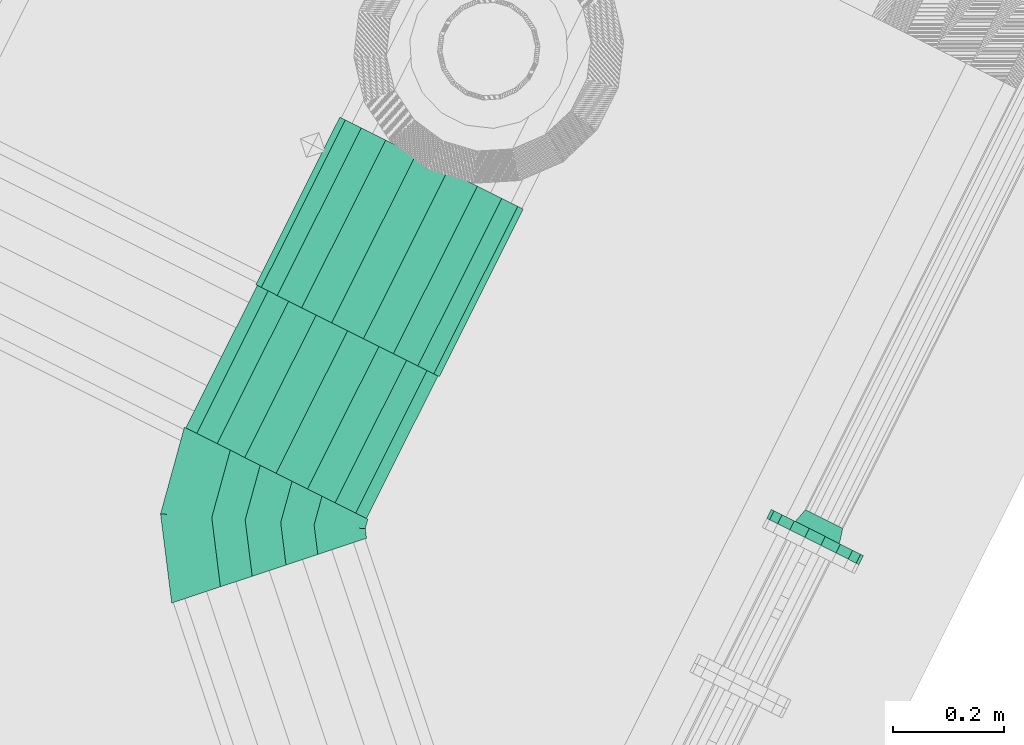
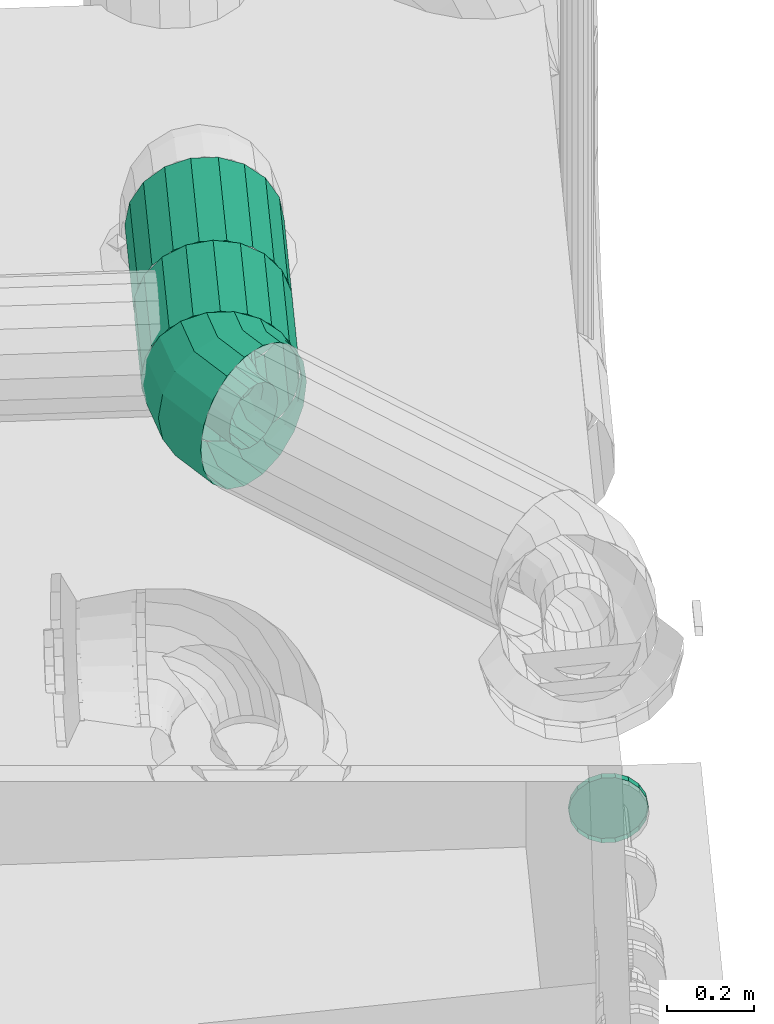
# One storey, part 81 of 206: 2 flow fittings, 2 flow segments.
"""IFC2X3 building model written with IfcOpenShell, lengths in metres."""

from ifc_helpers import new_model, si_unit, derived_unit, direction, frame, origin, place, context, subcontext, project, spatial, face_set, surface_model, source, transform, mapped, material, type_object, type_shapes, element, save


model = new_model("IFC2X3")

# Units and contexts
model_context = context("Model", 3, precision=5.2338327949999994e-05, world=origin(), true_north=direction((0.0, 1.0)))
body_context = subcontext(model_context, "Body", "Model", "MODEL_VIEW")
ifc_project = project(units=[si_unit("LENGTHUNIT", "METRE"), si_unit("AREAUNIT", "SQUARE_METRE"), si_unit("VOLUMEUNIT", "CUBIC_METRE"), si_unit("MASSUNIT", "GRAM", prefix="KILO"), si_unit("PLANEANGLEUNIT", "RADIAN"), derived_unit("THERMALTRANSMITTANCEUNIT", [(si_unit("MASSUNIT", "GRAM", prefix="KILO"), 1), (si_unit("THERMODYNAMICTEMPERATUREUNIT", "KELVIN"), -1), (si_unit("TIMEUNIT", "SECOND"), -3)])], contexts=[model_context])

# Site, building, storey
site_placement = place(None, frame((0.0, 0.0, 0.0), z_axis=(0.0, 0.0, 1.0), x_axis=(0.8939966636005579, -0.4480736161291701, 0.0)))
site = spatial("IfcSite", under=ifc_project, at=site_placement, Name="Default", CompositionType="ELEMENT")
building_placement = place(site_placement, origin())
building = spatial("IfcBuilding", under=site, at=building_placement, CompositionType="ELEMENT")
storey_placement = place(building_placement, origin())
storey = spatial("IfcBuildingStorey", under=building, at=storey_placement, Name="Erdgeschoss", CompositionType="ELEMENT", Elevation=0.0)

# Flow fitting
ifc_material_1 = material(Name="IfcSurfaceStyle #9317")
distribution_element_type_1 = type_object("IfcDistributionElementType", Name="Abzweigstück 340627:Abzweigstück 340627", material=ifc_material_1)
shared_shape_1 = source(origin(), body_context, "Body", "SurfaceModel", [
    surface_model("IfcFaceBasedSurfaceModel", [(26.529823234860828, 6.5159610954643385, 2.43815), (26.558604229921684, 6.5159610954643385, 2.433075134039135), (26.558604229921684, 6.801961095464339, 2.433075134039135), (26.529823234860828, 6.801961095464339, 2.43815), (26.58391381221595, 6.5159610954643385, 2.4184626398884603), (26.58391381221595, 6.801961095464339, 2.4184626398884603), (26.602699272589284, 6.5159610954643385, 2.396075), (26.602699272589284, 6.801961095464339, 2.396075), (26.612694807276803, 6.5159610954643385, 2.36861249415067), (26.612694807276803, 6.801961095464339, 2.36861249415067), (26.612694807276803, 6.5159610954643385, 2.339387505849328), (26.612694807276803, 6.801961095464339, 2.339387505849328), (26.602699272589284, 6.5159610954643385, 2.3119250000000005), (26.602699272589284, 6.801961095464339, 2.3119250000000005), (26.58391381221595, 6.5159610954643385, 2.28953736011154), (26.58391381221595, 6.801961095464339, 2.28953736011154), (26.558604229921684, 6.5159610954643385, 2.2749248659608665), (26.558604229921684, 6.801961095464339, 2.2749248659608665), (26.529823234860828, 6.515961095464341, 2.2698499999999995), (26.529823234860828, 6.801961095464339, 2.2698500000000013), (26.50104223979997, 6.5159610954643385, 2.274924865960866), (26.50104223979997, 6.801961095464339, 2.2749248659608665), (26.475732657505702, 6.5159610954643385, 2.2895373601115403), (26.475732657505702, 6.801961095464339, 2.2895373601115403), (26.45694719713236, 6.5159610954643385, 2.311925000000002), (26.45694719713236, 6.801961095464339, 2.311925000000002), (26.44695166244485, 6.5159610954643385, 2.339387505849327), (26.44695166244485, 6.801961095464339, 2.339387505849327), (26.44695166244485, 6.5159610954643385, 2.3686124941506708), (26.44695166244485, 6.801961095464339, 2.3686124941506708), (26.45694719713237, 6.5159610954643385, 2.396075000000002), (26.45694719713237, 6.801961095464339, 2.396075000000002), (26.475732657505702, 6.5159610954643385, 2.4184626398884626), (26.475732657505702, 6.801961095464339, 2.4184626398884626), (26.501042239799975, 6.5159610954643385, 2.4330751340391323), (26.501042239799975, 6.801961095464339, 2.4330751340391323), (26.529823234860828, 6.5159610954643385, 2.5381499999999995), (26.592806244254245, 6.5159610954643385, 2.5270443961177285), (26.592806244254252, 6.801961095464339, 2.5270443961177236), (26.529823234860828, 6.801961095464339, 2.5381499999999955), (26.648192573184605, 6.5159610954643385, 2.4950670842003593), (26.648192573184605, 6.801961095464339, 2.4950670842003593), (26.689301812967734, 6.5159610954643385, 2.446074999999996), (26.689301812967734, 6.801961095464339, 2.446074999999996), (26.711175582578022, 6.5159610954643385, 2.3859773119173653), (26.711175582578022, 6.801961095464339, 2.3859773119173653), (26.711175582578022, 6.5159610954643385, 2.3220226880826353), (26.711175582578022, 6.801961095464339, 2.3220226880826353), (26.689301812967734, 6.5159610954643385, 2.2619249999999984), (26.689301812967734, 6.801961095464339, 2.2619249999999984), (26.648192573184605, 6.5159610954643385, 2.212932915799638), (26.648192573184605, 6.801961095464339, 2.212932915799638), (26.592806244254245, 6.5159610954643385, 2.1809556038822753), (26.592806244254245, 6.801961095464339, 2.1809556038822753), (26.529823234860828, 6.5159610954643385, 2.1698499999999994), (26.529823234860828, 6.801961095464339, 2.1698499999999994), (26.466840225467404, 6.5159610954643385, 2.1809556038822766), (26.466840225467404, 6.801961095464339, 2.1809556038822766), (26.411453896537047, 6.5159610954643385, 2.2129329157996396), (26.411453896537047, 6.801961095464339, 2.2129329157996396), (26.37034465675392, 6.5159610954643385, 2.261925), (26.37034465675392, 6.801961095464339, 2.261925), (26.34847088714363, 6.5159610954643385, 2.322022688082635), (26.34847088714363, 6.801961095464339, 2.322022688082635), (26.34847088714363, 6.5159610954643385, 2.385977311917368), (26.34847088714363, 6.801961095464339, 2.385977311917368), (26.37034465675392, 6.5159610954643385, 2.4460750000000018), (26.37034465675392, 6.801961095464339, 2.4460750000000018), (26.41145389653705, 6.5159610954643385, 2.49506708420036), (26.41145389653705, 6.801961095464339, 2.49506708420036), (26.4668402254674, 6.5159610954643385, 2.5270443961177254), (26.4668402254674, 6.801961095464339, 2.5270443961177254), (26.44567323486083, 6.728811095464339, 2.3540000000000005), (26.44913565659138, 6.724598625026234, 2.330109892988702), (26.392823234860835, 6.724598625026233, 2.3301098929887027), (26.392823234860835, 6.728811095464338, 2.3540000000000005), (26.45865211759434, 6.7124692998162, 2.3091012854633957), (26.392823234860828, 6.7124692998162, 2.3091012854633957), (26.471325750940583, 6.6938860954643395, 2.2935081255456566), (26.392823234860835, 6.6938860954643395, 2.293508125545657), (26.48135344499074, 6.671090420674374, 2.285211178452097), (26.392823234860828, 6.671090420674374, 2.2852111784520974), (26.48135344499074, 6.646831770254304, 2.285211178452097), (26.392823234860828, 6.646831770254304, 2.2852111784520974), (26.471325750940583, 6.624036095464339, 2.293508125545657), (26.392823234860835, 6.624036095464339, 2.2935081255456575), (26.45865211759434, 6.6054528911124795, 2.3091012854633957), (26.392823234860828, 6.6054528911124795, 2.309101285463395), (26.44913565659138, 6.593323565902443, 2.330109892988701), (26.392823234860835, 6.593323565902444, 2.330109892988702), (26.44567323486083, 6.5891110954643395, 2.3540000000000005), (26.392823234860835, 6.5891110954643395, 2.3540000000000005), (26.44913565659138, 6.593323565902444, 2.3778901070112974), (26.392823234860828, 6.593323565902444, 2.3778901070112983), (26.45865211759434, 6.6054528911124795, 2.3988987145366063), (26.392823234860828, 6.6054528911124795, 2.3988987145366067), (26.471325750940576, 6.624036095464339, 2.414491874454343), (26.392823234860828, 6.624036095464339, 2.4144918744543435), (26.48135344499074, 6.646831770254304, 2.422788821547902), (26.392823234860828, 6.646831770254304, 2.422788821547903), (26.48135344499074, 6.671090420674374, 2.4227888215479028), (26.392823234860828, 6.671090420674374, 2.4227888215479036), (26.471325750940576, 6.6938860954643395, 2.4144918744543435), (26.392823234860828, 6.6938860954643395, 2.414491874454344), (26.45865211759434, 6.7124692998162, 2.398898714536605), (26.392823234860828, 6.7124692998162, 2.398898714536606), (26.44913565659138, 6.724598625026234, 2.3778901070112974), (26.392823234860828, 6.724598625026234, 2.3778901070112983)], [face_set([[[0, 1, 2, 3]], [[1, 4, 5, 2]], [[4, 6, 7, 5]], [[6, 8, 9, 7]], [[8, 10, 11, 9]], [[10, 12, 13, 11]], [[12, 14, 15, 13]], [[14, 16, 17, 15]], [[16, 18, 19, 17]], [[18, 20, 21, 19]], [[20, 22, 23, 21]], [[22, 24, 25, 23]], [[24, 26, 27, 25]], [[26, 28, 29, 27]], [[28, 30, 31, 29]], [[30, 32, 33, 31]], [[32, 34, 35, 33]], [[34, 0, 3, 35]], [[36, 37, 38, 39]], [[37, 40, 41, 38]], [[40, 42, 43, 41]], [[42, 44, 45, 43]], [[44, 46, 47, 45]], [[46, 48, 49, 47]], [[48, 50, 51, 49]], [[50, 52, 53, 51]], [[52, 54, 55, 53]], [[54, 56, 57, 55]], [[56, 58, 59, 57]], [[58, 60, 61, 59]], [[60, 62, 63, 61]], [[62, 64, 65, 63]], [[64, 66, 67, 65]], [[66, 68, 69, 67]], [[68, 70, 71, 69]], [[70, 36, 39, 71]], [[72, 73, 74, 75]], [[73, 76, 77, 74]], [[76, 78, 79, 77]], [[78, 80, 81, 79]], [[80, 82, 83, 81]], [[82, 84, 85, 83]], [[84, 86, 87, 85]], [[86, 88, 89, 87]], [[88, 90, 91, 89]], [[90, 92, 93, 91]], [[92, 94, 95, 93]], [[94, 96, 97, 95]], [[96, 98, 99, 97]], [[98, 100, 101, 99]], [[100, 102, 103, 101]], [[102, 104, 105, 103]], [[104, 106, 107, 105]], [[106, 72, 75, 107]]])]),
])
type_shapes(distribution_element_type_1, [shared_shape_1])
flow_fitting_1_placement = place(storey_placement, origin())
element("IfcFlowFitting", 1, at=flow_fitting_1_placement, inside=storey, type_object=distribution_element_type_1, material=ifc_material_1, Name="Abzweigstück", ObjectType="Abzweigstück", context=body_context, shape_type="MappedRepresentation", body=[
    mapped(shared_shape_1, transform((0.0, 0.0, 0.0), scale=1.0)),
])

# Flow segments
distribution_element_type_2 = type_object("IfcDistributionElementType", Name="Stahlrohr nach DIN 2448 340650:Stahlrohr nach DIN 2448 340650", material=ifc_material_1)
shared_shape_2 = source(origin(), body_context, "Body", "SurfaceModel", [
    surface_model("IfcFaceBasedSurfaceModel", [(26.613973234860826, 7.138307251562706, 2.3539999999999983), (26.60889836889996, 7.138307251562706, 2.382780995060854), (26.60889836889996, 6.80196109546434, 2.382780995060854), (26.613973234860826, 6.80196109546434, 2.354000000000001), (26.594285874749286, 7.138307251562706, 2.40809057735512), (26.594285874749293, 6.80196109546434, 2.4080905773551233), (26.571898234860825, 7.138307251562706, 2.426876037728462), (26.57189823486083, 6.80196109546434, 2.426876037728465), (26.544435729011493, 7.138307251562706, 2.4368715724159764), (26.544435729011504, 6.80196109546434, 2.436871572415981), (26.515210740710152, 7.138307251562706, 2.4368715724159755), (26.515210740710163, 6.80196109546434, 2.4368715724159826), (26.487748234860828, 7.138307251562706, 2.4268760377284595), (26.48774823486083, 6.80196109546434, 2.4268760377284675), (26.465360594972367, 7.138307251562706, 2.4080905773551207), (26.46536059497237, 6.80196109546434, 2.408090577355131), (26.45074810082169, 7.138307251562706, 2.382780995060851), (26.4507481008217, 6.80196109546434, 2.3827809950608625), (26.445673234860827, 7.138307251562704, 2.3539999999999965), (26.445673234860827, 6.801961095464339, 2.3540000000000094), (26.45074810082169, 7.138307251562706, 2.325219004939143), (26.450748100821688, 6.801961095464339, 2.325219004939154), (26.465360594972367, 7.138307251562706, 2.299909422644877), (26.465360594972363, 6.80196109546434, 2.299909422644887), (26.487748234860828, 7.138307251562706, 2.2811239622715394), (26.487748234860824, 6.80196109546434, 2.281123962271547), (26.51521074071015, 7.138307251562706, 2.2711284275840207), (26.51521074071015, 6.80196109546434, 2.271128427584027), (26.5444357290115, 7.138307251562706, 2.271128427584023), (26.54443572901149, 6.80196109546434, 2.271128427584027), (26.571898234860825, 7.138307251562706, 2.2811239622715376), (26.57189823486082, 6.80196109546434, 2.2811239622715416), (26.59428587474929, 7.138307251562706, 2.299909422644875), (26.594285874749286, 6.80196109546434, 2.2999094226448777), (26.60889836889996, 7.138307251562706, 2.325219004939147), (26.60889836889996, 6.80196109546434, 2.3252190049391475), (26.71397323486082, 7.138307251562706, 2.353999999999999), (26.702867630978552, 7.138307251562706, 2.4169830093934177), (26.702867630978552, 6.80196109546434, 2.4169830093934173), (26.713973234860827, 6.80196109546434, 2.3539999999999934), (26.670890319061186, 7.138307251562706, 2.4723693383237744), (26.67089031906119, 6.80196109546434, 2.4723693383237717), (26.62189823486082, 7.138307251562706, 2.5134785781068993), (26.621898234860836, 6.80196109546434, 2.5134785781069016), (26.561800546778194, 7.138307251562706, 2.5353523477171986), (26.5618005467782, 6.80196109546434, 2.5353523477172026), (26.497845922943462, 7.138307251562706, 2.5353523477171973), (26.497845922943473, 6.80196109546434, 2.535352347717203), (26.437748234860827, 7.138307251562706, 2.5134785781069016), (26.437748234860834, 6.80196109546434, 2.5134785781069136), (26.388756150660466, 7.138307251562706, 2.4723693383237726), (26.38875615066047, 6.80196109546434, 2.4723693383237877), (26.3567788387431, 7.138307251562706, 2.4169830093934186), (26.3567788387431, 6.80196109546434, 2.416983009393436), (26.345673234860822, 7.138307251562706, 2.3539999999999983), (26.345673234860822, 6.80196109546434, 2.3540000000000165), (26.3567788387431, 7.138307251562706, 2.2910169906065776), (26.356778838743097, 6.80196109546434, 2.2910169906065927), (26.388756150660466, 7.138307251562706, 2.2356306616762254), (26.38875615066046, 6.80196109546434, 2.2356306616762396), (26.437748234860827, 7.138307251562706, 2.194521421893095), (26.437748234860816, 6.80196109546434, 2.194521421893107), (26.497845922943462, 7.138307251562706, 2.172647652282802), (26.49784592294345, 6.80196109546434, 2.17264765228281), (26.561800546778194, 7.138307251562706, 2.1726476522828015), (26.56180054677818, 6.80196109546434, 2.1726476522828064), (26.621898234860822, 7.138307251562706, 2.194521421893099), (26.62189823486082, 6.80196109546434, 2.1945214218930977), (26.67089031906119, 7.138307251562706, 2.235630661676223), (26.670890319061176, 6.80196109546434, 2.2356306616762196), (26.702867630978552, 7.138307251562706, 2.29101699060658), (26.702867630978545, 6.80196109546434, 2.291016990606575)], [face_set([[[0, 1, 2, 3]], [[1, 4, 5, 2]], [[4, 6, 7, 5]], [[6, 8, 9, 7]], [[8, 10, 11, 9]], [[10, 12, 13, 11]], [[12, 14, 15, 13]], [[14, 16, 17, 15]], [[16, 18, 19, 17]], [[18, 20, 21, 19]], [[20, 22, 23, 21]], [[22, 24, 25, 23]], [[24, 26, 27, 25]], [[26, 28, 29, 27]], [[28, 30, 31, 29]], [[30, 32, 33, 31]], [[32, 34, 35, 33]], [[34, 0, 3, 35]], [[36, 37, 38, 39]], [[37, 40, 41, 38]], [[40, 42, 43, 41]], [[42, 44, 45, 43]], [[44, 46, 47, 45]], [[46, 48, 49, 47]], [[48, 50, 51, 49]], [[50, 52, 53, 51]], [[52, 54, 55, 53]], [[54, 56, 57, 55]], [[56, 58, 59, 57]], [[58, 60, 61, 59]], [[60, 62, 63, 61]], [[62, 64, 65, 63]], [[64, 66, 67, 65]], [[66, 68, 69, 67]], [[68, 70, 71, 69]], [[70, 36, 39, 71]]])]),
])
type_shapes(distribution_element_type_2, [shared_shape_2])
flow_segment_1_placement = place(storey_placement, origin())
element("IfcFlowSegment", 2, at=flow_segment_1_placement, inside=storey, type_object=distribution_element_type_2, material=ifc_material_1, Name="Stahlrohr nach DIN 2448", ObjectType="Stahlrohr nach DIN 2448", context=body_context, shape_type="MappedRepresentation", body=[
    mapped(shared_shape_2, transform((0.0, 0.0, 0.0), scale=1.0)),
])
distribution_element_type_3 = type_object("IfcDistributionElementType", Name="Rohrbogen 342254:Rohrbogen 342254", material=ifc_material_1)
shared_shape_3 = source(origin(), body_context, "Body", "SurfaceModel", [
    surface_model("IfcFaceBasedSurfaceModel", [(26.445673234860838, 6.515961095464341, 2.354000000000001), (26.450748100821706, 6.5159610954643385, 2.325219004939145), (26.474198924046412, 6.398065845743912, 2.325219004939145), (26.469510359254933, 6.396123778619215, 2.354000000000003), (26.54098121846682, 6.298119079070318, 2.3252190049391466), (26.537392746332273, 6.294530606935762, 2.3539999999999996), (26.465360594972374, 6.5159610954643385, 2.299909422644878), (26.487699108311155, 6.403657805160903, 2.299909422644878), (26.5513138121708, 6.308451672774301, 2.2999094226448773), (26.48774823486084, 6.515961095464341, 2.2811239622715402), (26.50838259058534, 6.412225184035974, 2.2811239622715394), (26.5671442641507, 6.324282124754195, 2.281123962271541), (26.515210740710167, 6.51596109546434, 2.271128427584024), (26.533754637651, 6.42273463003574, 2.271128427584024), (26.58656318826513, 6.3437010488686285, 2.271128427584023), (26.54443572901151, 6.51596109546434, 2.271128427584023), (26.560755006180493, 6.433918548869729, 2.271128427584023), (26.607228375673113, 6.364366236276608, 2.2711284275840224), (26.57189823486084, 6.51596109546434, 2.281123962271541), (26.586127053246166, 6.444427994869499, 2.2811239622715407), (26.626647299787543, 6.383785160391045, 2.281123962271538), (26.5942858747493, 6.5159610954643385, 2.299909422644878), (26.60681053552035, 6.4529953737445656, 2.299909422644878), (26.642477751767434, 6.399615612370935, 2.299909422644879), (26.608898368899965, 6.515961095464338, 2.3252190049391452), (26.620310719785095, 6.458587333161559, 2.3252190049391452), (26.652810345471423, 6.409948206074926, 2.325219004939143), (26.61397323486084, 6.5159610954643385, 2.354000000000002), (26.624999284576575, 6.460529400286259, 2.354000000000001), (26.656398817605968, 6.413536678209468, 2.3540000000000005), (26.60889836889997, 6.5159610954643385, 2.382780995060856), (26.620310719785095, 6.45858733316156, 2.382780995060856), (26.652810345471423, 6.409948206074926, 2.3827809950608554), (26.594285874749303, 6.51596109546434, 2.408090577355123), (26.606810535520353, 6.4529953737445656, 2.408090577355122), (26.64247775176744, 6.399615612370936, 2.4080905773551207), (26.57189823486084, 6.51596109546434, 2.4268760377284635), (26.586127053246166, 6.444427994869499, 2.4268760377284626), (26.626647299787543, 6.383785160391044, 2.426876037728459), (26.54443572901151, 6.51596109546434, 2.4368715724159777), (26.560755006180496, 6.433918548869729, 2.436871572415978), (26.607228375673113, 6.3643662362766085, 2.436871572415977), (26.515210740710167, 6.5159610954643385, 2.4368715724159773), (26.533754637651, 6.422734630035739, 2.4368715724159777), (26.58656318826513, 6.3437010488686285, 2.4368715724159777), (26.48774823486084, 6.51596109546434, 2.4268760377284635), (26.508382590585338, 6.412225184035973, 2.4268760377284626), (26.56714426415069, 6.324282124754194, 2.42687603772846), (26.46536059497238, 6.5159610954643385, 2.4080905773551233), (26.487699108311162, 6.403657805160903, 2.408090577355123), (26.551313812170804, 6.308451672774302, 2.4080905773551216), (26.450748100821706, 6.51596109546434, 2.3827809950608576), (26.47419892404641, 6.398065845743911, 2.3827809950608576), (26.540981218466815, 6.2981190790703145, 2.382780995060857), (26.34567323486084, 6.515961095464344, 2.3539999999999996), (26.35677883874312, 6.515961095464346, 2.291016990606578), (26.387382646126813, 6.362105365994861, 2.2910169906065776), (26.377122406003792, 6.357855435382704, 2.353999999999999), (26.474534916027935, 6.231672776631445, 2.291016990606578), (26.46668206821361, 6.223819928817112, 2.353999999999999), (26.38875615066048, 6.515961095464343, 2.2356306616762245), (26.416925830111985, 6.374342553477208, 2.235630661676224), (26.49714629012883, 6.25428415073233, 2.2356306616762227), (26.437748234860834, 6.515961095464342, 2.1945214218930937), (26.462188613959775, 6.39309101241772, 2.194521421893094), (26.531788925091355, 6.288926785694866, 2.194521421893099), (26.497845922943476, 6.51596109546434, 2.1726476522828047), (26.517711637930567, 6.416089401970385, 2.1726476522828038), (26.574284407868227, 6.331422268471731, 2.1726476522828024), (26.56180054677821, 6.5159610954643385, 2.1726476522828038), (26.576798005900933, 6.440563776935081, 2.172647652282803), (26.61950715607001, 6.376645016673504, 2.172647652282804), (26.62189823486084, 6.515961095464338, 2.1945214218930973), (26.63232102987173, 6.463562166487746, 2.1945214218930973), (26.66200263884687, 6.419140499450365, 2.1945214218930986), (26.670890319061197, 6.515961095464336, 2.235630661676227), (26.677583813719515, 6.482310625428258, 2.235630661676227), (26.69664527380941, 6.453783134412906, 2.235630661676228), (26.70286763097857, 6.515961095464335, 2.2910169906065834), (26.707126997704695, 6.494547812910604, 2.2910169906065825), (26.719256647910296, 6.476394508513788, 2.291016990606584), (26.713973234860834, 6.515961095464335, 2.354000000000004), (26.7173872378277, 6.498797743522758, 2.354000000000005), (26.727109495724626, 6.4842473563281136, 2.3540000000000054), (26.70286763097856, 6.515961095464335, 2.4169830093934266), (26.70712699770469, 6.494547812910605, 2.4169830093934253), (26.719256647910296, 6.476394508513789, 2.4169830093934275), (26.670890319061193, 6.515961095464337, 2.47236933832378), (26.677583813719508, 6.482310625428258, 2.47236933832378), (26.696645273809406, 6.453783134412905, 2.4723693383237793), (26.621898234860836, 6.515961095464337, 2.5134785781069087), (26.63232102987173, 6.463562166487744, 2.5134785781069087), (26.662002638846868, 6.419140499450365, 2.5134785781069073), (26.5618005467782, 6.515961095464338, 2.535352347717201), (26.576798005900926, 6.440563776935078, 2.535352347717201), (26.61950715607, 6.376645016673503, 2.5353523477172), (26.497845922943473, 6.51596109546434, 2.5353523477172), (26.517711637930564, 6.416089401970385, 2.5353523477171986), (26.574284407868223, 6.33142226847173, 2.5353523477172), (26.437748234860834, 6.515961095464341, 2.513478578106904), (26.46218861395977, 6.393091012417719, 2.5134785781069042), (26.531788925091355, 6.288926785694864, 2.513478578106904), (26.388756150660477, 6.515961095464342, 2.472369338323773), (26.416925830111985, 6.374342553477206, 2.472369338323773), (26.497146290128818, 6.254284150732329, 2.472369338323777), (26.356778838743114, 6.515961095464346, 2.4169830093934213), (26.387382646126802, 6.36210536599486, 2.4169830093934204), (26.47453491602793, 6.231672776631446, 2.416983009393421)], [face_set([[[0, 1, 2, 3]], [[3, 2, 4, 5]], [[1, 6, 7, 2]], [[2, 7, 8, 4]], [[6, 9, 10, 7]], [[7, 10, 11, 8]], [[9, 12, 13, 10]], [[10, 13, 14, 11]], [[12, 15, 16, 13]], [[13, 16, 17, 14]], [[15, 18, 19, 16]], [[16, 19, 20, 17]], [[18, 21, 22, 19]], [[19, 22, 23, 20]], [[21, 24, 25, 22]], [[22, 25, 26, 23]], [[24, 27, 28, 25]], [[25, 28, 29, 26]], [[27, 30, 31, 28]], [[28, 31, 32, 29]], [[30, 33, 34, 31]], [[31, 34, 35, 32]], [[33, 36, 37, 34]], [[34, 37, 38, 35]], [[36, 39, 40, 37]], [[37, 40, 41, 38]], [[39, 42, 43, 40]], [[40, 43, 44, 41]], [[42, 45, 46, 43]], [[43, 46, 47, 44]], [[45, 48, 49, 46]], [[46, 49, 50, 47]], [[48, 51, 52, 49]], [[49, 52, 53, 50]], [[51, 0, 3, 52]], [[52, 3, 5, 53]], [[54, 55, 56, 57]], [[57, 56, 58, 59]], [[55, 60, 61, 56]], [[56, 61, 62, 58]], [[60, 63, 64, 61]], [[61, 64, 65, 62]], [[63, 66, 67, 64]], [[64, 67, 68, 65]], [[66, 69, 70, 67]], [[67, 70, 71, 68]], [[69, 72, 73, 70]], [[70, 73, 74, 71]], [[72, 75, 76, 73]], [[73, 76, 77, 74]], [[75, 78, 79, 76]], [[76, 79, 80, 77]], [[78, 81, 82, 79]], [[79, 82, 83, 80]], [[81, 84, 85, 82]], [[82, 85, 86, 83]], [[84, 87, 88, 85]], [[85, 88, 89, 86]], [[87, 90, 91, 88]], [[88, 91, 92, 89]], [[90, 93, 94, 91]], [[91, 94, 95, 92]], [[93, 96, 97, 94]], [[94, 97, 98, 95]], [[96, 99, 100, 97]], [[97, 100, 101, 98]], [[99, 102, 103, 100]], [[100, 103, 104, 101]], [[102, 105, 106, 103]], [[103, 106, 107, 104]], [[105, 54, 57, 106]], [[106, 57, 59, 107]]])]),
])
type_shapes(distribution_element_type_3, [shared_shape_3])
flow_segment_2_placement = place(storey_placement, origin())
element("IfcFlowSegment", 3, at=flow_segment_2_placement, inside=storey, type_object=distribution_element_type_3, material=ifc_material_1, Name="Rohrbogen", ObjectType="Rohrbogen", context=body_context, shape_type="MappedRepresentation", body=[
    mapped(shared_shape_3, transform((0.0, 0.0, 0.0), scale=1.0)),
])

# Flow fitting
ifc_material_2 = material(Name="IfcSurfaceStyle #352577")
distribution_element_type_4 = type_object("IfcDistributionElementType", Name="Flansch 604592:Flansch 604592", material=ifc_material_2)
shared_shape_4 = source(origin(), body_context, "Body", "SurfaceModel", [
    surface_model("IfcFaceBasedSurfaceModel", [(27.445642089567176, 6.88295839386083, 0.9080499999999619), (27.432628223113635, 6.882958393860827, 0.9057553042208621), (27.43025118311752, 6.8559583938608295, 0.9122861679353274), (27.445642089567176, 6.855958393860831, 0.9149999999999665), (27.421184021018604, 6.882958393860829, 0.8991479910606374), (27.41671664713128, 6.85595839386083, 0.9044719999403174), (27.412689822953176, 6.882958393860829, 0.8890249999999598), (27.406670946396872, 6.855958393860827, 0.8924999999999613), (27.40817015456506, 6.882958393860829, 0.8766073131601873), (27.401325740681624, 6.855958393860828, 0.8778141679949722), (27.40817015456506, 6.882958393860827, 0.8633926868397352), (27.401325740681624, 6.855958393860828, 0.8621858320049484), (27.412689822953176, 6.882958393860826, 0.8509749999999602), (27.406670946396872, 6.855958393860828, 0.8474999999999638), (27.421184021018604, 6.882958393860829, 0.8408520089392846), (27.41671664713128, 6.855958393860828, 0.8355280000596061), (27.432628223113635, 6.882958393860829, 0.8342446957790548), (27.430251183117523, 6.8559583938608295, 0.8277138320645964), (27.44564208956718, 6.88295839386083, 0.8319499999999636), (27.445642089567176, 6.85595839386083, 0.8249999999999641), (27.458655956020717, 6.882958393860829, 0.8342446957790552), (27.46103299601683, 6.85595839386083, 0.8277138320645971), (27.470100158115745, 6.88295839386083, 0.8408520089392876), (27.474567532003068, 6.85595839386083, 0.8355280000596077), (27.478594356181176, 6.88295839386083, 0.8509749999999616), (27.484613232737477, 6.85595839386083, 0.8474999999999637), (27.48311402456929, 6.882958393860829, 0.863392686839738), (27.48995843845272, 6.8559583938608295, 0.8621858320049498), (27.48311402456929, 6.8829583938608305, 0.8766073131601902), (27.489958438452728, 6.855958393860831, 0.8778141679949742), (27.47859435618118, 6.882958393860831, 0.8890249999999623), (27.48461323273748, 6.855958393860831, 0.8924999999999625), (27.470100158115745, 6.882958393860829, 0.8991479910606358), (27.474567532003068, 6.85595839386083, 0.9044719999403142), (27.458655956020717, 6.882958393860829, 0.9057553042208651), (27.461032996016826, 6.855958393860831, 0.9122861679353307), (27.538142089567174, 6.855958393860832, 0.8699999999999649), (27.532563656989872, 6.855958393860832, 0.9016368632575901), (27.532563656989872, 6.83795839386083, 0.9016368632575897), (27.538142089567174, 6.83795839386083, 0.8699999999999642), (27.516501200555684, 6.855958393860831, 0.9294578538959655), (27.516501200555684, 6.837958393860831, 0.9294578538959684), (27.491892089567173, 6.855958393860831, 0.9501073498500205), (27.491892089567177, 6.837958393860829, 0.9501073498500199), (27.461704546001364, 6.855958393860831, 0.9610947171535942), (27.461704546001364, 6.837958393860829, 0.9610947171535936), (27.429579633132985, 6.8559583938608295, 0.9610947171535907), (27.429579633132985, 6.837958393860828, 0.9610947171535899), (27.399392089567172, 6.8559583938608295, 0.9501073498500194), (27.399392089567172, 6.837958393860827, 0.9501073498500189), (27.374782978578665, 6.855958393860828, 0.9294578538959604), (27.374782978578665, 6.837958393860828, 0.929457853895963), (27.358720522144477, 6.855958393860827, 0.9016368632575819), (27.358720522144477, 6.837958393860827, 0.9016368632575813), (27.35314208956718, 6.8559583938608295, 0.8699999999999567), (27.35314208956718, 6.837958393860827, 0.8699999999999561), (27.358720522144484, 6.855958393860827, 0.8383631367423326), (27.358720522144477, 6.837958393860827, 0.8383631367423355), (27.37478297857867, 6.855958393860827, 0.8105421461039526), (27.37478297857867, 6.837958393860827, 0.8105421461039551), (27.399392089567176, 6.855958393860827, 0.7898926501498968), (27.399392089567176, 6.837958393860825, 0.7898926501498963), (27.429579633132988, 6.8559583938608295, 0.7789052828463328), (27.429579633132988, 6.837958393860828, 0.7789052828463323), (27.461704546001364, 6.8559583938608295, 0.7789052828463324), (27.461704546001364, 6.837958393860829, 0.7789052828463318), (27.491892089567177, 6.8559583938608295, 0.7898926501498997), (27.491892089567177, 6.837958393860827, 0.7898926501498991), (27.516501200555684, 6.855958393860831, 0.8105421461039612), (27.516501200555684, 6.837958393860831, 0.8105421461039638), (27.532563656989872, 6.855958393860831, 0.8383631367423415), (27.532563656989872, 6.837958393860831, 0.8383631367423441), (27.44564208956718, 6.8559583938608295, 0.8699999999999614)], [face_set([[[0, 1, 2, 3]], [[1, 4, 5, 2]], [[4, 6, 7, 5]], [[6, 8, 9, 7]], [[8, 10, 11, 9]], [[10, 12, 13, 11]], [[12, 14, 15, 13]], [[14, 16, 17, 15]], [[16, 18, 19, 17]], [[18, 20, 21, 19]], [[20, 22, 23, 21]], [[22, 24, 25, 23]], [[24, 26, 27, 25]], [[26, 28, 29, 27]], [[28, 30, 31, 29]], [[30, 32, 33, 31]], [[32, 34, 35, 33]], [[34, 0, 3, 35]], [[36, 37, 38, 39]], [[37, 40, 41, 38]], [[40, 42, 43, 41]], [[42, 44, 45, 43]], [[44, 46, 47, 45]], [[46, 48, 49, 47]], [[48, 50, 51, 49]], [[50, 52, 53, 51]], [[52, 54, 55, 53]], [[54, 56, 57, 55]], [[56, 58, 59, 57]], [[58, 60, 61, 59]], [[60, 62, 63, 61]], [[62, 64, 65, 63]], [[64, 66, 67, 65]], [[66, 68, 69, 67]], [[68, 70, 71, 69]], [[70, 36, 39, 71]], [[72, 37, 36]], [[72, 40, 37]], [[72, 42, 40]], [[72, 44, 42]], [[72, 46, 44]], [[72, 48, 46]], [[72, 50, 48]], [[72, 52, 50]], [[72, 54, 52]], [[72, 56, 54]], [[72, 58, 56]], [[72, 60, 58]], [[72, 62, 60]], [[72, 64, 62]], [[72, 66, 64]], [[72, 68, 66]], [[72, 70, 68]], [[72, 36, 70]]])]),
])
type_shapes(distribution_element_type_4, [shared_shape_4])
flow_fitting_2_placement = place(storey_placement, origin())
element("IfcFlowFitting", 4, at=flow_fitting_2_placement, inside=storey, type_object=distribution_element_type_4, material=ifc_material_2, Name="Flansch", ObjectType="Flansch", context=body_context, shape_type="MappedRepresentation", body=[
    mapped(shared_shape_4, transform((0.0, 0.0, 0.0), scale=1.0)),
])

save(model, "model.ifc")
